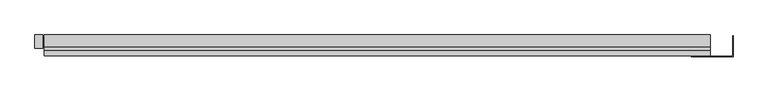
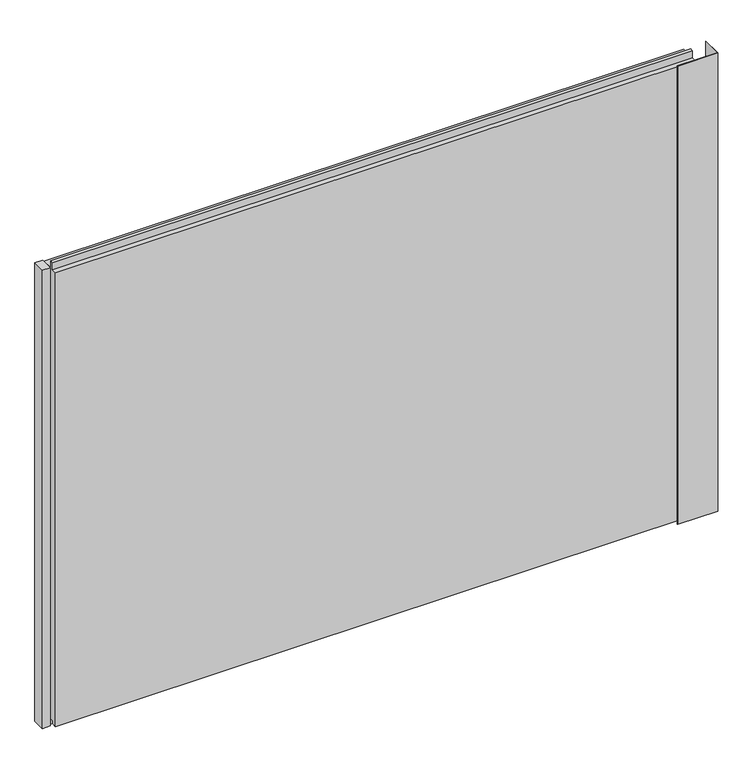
"""IFC4 building model written with IfcOpenShell, lengths in millimetres: plate geometry, Trimo_Qbiss Screen_Normal Panel-HORIZONTAL : HR - FB-F."""

from ifc_helpers import new_model, si_unit, frame, origin, place, context, project, spatial, polyline, outline, extrude, source, transform, mapped, element, save


def plate_99067047(model_context):
    return source(origin(), model_context, "Body", "SweptSolid", [
        extrude(outline(polyline([(702.7, 49.0), (801.0, 49.0), (801.0, 98.3), (801.8, 98.3), (801.8, 48.2), (702.7, 48.2), (702.7, 49.0)])), frame((0.0, 0.0, -1.0), z_axis=(0.0, 0.0, 1.0), x_axis=(1.0, 0.0, 0.0)), (0.0, 0.0, 1.0), 1200.0),
        extrude(outline(polyline([(-840.5, 67.8978162), (-859.5, 67.8978162), (-859.5, 100.0), (-840.5, 100.0), (-840.5, 67.8978162)])), frame((0.0, 0.0, -1.0), z_axis=(0.0, 0.0, 1.0), x_axis=(1.0, 0.0, 0.0)), (0.0, 0.0, 1.0), 1200.0),
        extrude(outline(polyline([(71.0, 1196.0), (100.0, 1196.0), (100.0, 0.0), (72.0, 0.0), (72.0, 15.5), (62.0, 15.5), (62.0, 7.0), (50.0, 7.0), (50.0, 1196.0), (63.0, 1196.0), (63.0, 1214.5), (71.0, 1214.5), (71.0, 1196.0)])), frame((-837.5, 0.0, 0.0), z_axis=(1.0, 0.0, 0.0), x_axis=(0.0, 1.0, 0.0)), (0.0, 0.0, 1.0), 1585.5),
    ])


if __name__ == "__main__":
    model = new_model("IFC4")
    model_context = context("Model", 3, world=origin())
    ifc_project = project(units=[si_unit("LENGTHUNIT", "METRE", prefix="MILLI")], contexts=[model_context])
    site = spatial("IfcSite", under=ifc_project)
    building = spatial("IfcBuilding", under=site)
    placement = place(None, origin())
    plate_shape = plate_99067047(model_context)
    element("IfcPlate", 1, ObjectType="Trimo_Qbiss Screen_Normal Panel-HORIZONTAL : HR - FB-F", at=placement, inside=building, context=model_context, shape_type="MappedRepresentation", body=[
        mapped(plate_shape, transform((0.0, 0.0, 0.0), x_axis=(1.0, 0.0, 0.0), y_axis=(0.0, 1.0, 0.0), z_axis=(0.0, 0.0, 1.0))),
    ])
    save(model, "model.ifc")
